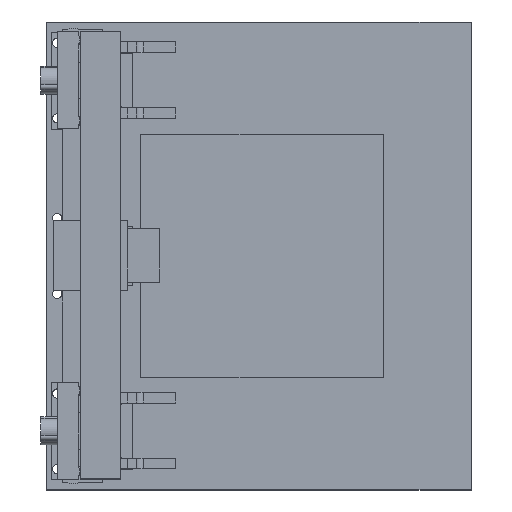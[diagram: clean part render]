
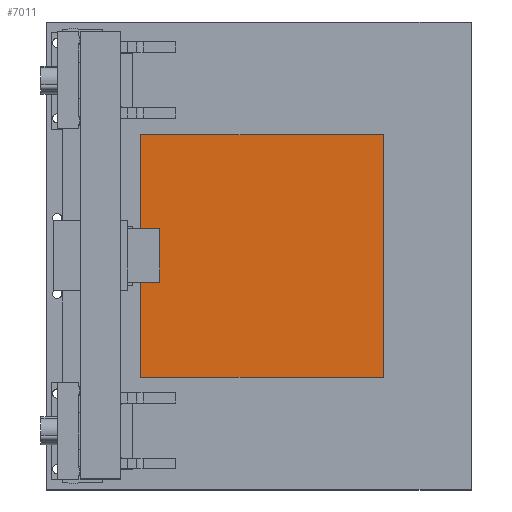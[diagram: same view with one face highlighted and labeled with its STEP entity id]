
A CAD part, top view. The second image highlights one B-rep face of the part: STEP entity #7011.
In plain terms, the highlighted planar face has unit normal (0, 0, 1).
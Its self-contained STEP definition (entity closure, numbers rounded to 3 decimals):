
#6697 = VERTEX_POINT('',#6698);
#6698 = CARTESIAN_POINT('',(-45.,-45.,2.));
#6705 = PLANE('',#6706);
#6706 = AXIS2_PLACEMENT_3D('',#6707,#6708,#6709);
#6707 = CARTESIAN_POINT('',(-45.,-45.,-2.));
#6708 = DIRECTION('',(1.,0.,-0.));
#6709 = DIRECTION('',(0.,0.,1.));
#6717 = PLANE('',#6718);
#6718 = AXIS2_PLACEMENT_3D('',#6719,#6720,#6721);
#6719 = CARTESIAN_POINT('',(-45.,-45.,-2.));
#6720 = DIRECTION('',(-0.,1.,0.));
#6721 = DIRECTION('',(0.,0.,1.));
#6758 = VERTEX_POINT('',#6759);
#6759 = CARTESIAN_POINT('',(-45.,45.,2.));
#6773 = PLANE('',#6774);
#6774 = AXIS2_PLACEMENT_3D('',#6775,#6776,#6777);
#6775 = CARTESIAN_POINT('',(-45.,45.,-2.));
#6776 = DIRECTION('',(-0.,1.,0.));
#6777 = DIRECTION('',(0.,0.,1.));
#6785 = EDGE_CURVE('',#6697,#6758,#6786,.T.);
#6786 = SURFACE_CURVE('',#6787,(#6791,#6798),.PCURVE_S1.);
#6787 = LINE('',#6788,#6789);
#6788 = CARTESIAN_POINT('',(-45.,-45.,2.));
#6789 = VECTOR('',#6790,1.);
#6790 = DIRECTION('',(-0.,1.,0.));
#6791 = PCURVE('',#6705,#6792);
#6792 = DEFINITIONAL_REPRESENTATION('',(#6793),#6797);
#6793 = LINE('',#6794,#6795);
#6794 = CARTESIAN_POINT('',(4.,0.));
#6795 = VECTOR('',#6796,1.);
#6796 = DIRECTION('',(0.,-1.));
#6797 = ( GEOMETRIC_REPRESENTATION_CONTEXT(2) 
PARAMETRIC_REPRESENTATION_CONTEXT() REPRESENTATION_CONTEXT('2D SPACE',''
  ) );
#6798 = PCURVE('',#6799,#6804);
#6799 = PLANE('',#6800);
#6800 = AXIS2_PLACEMENT_3D('',#6801,#6802,#6803);
#6801 = CARTESIAN_POINT('',(-45.,-45.,2.));
#6802 = DIRECTION('',(0.,0.,1.));
#6803 = DIRECTION('',(1.,0.,-0.));
#6804 = DEFINITIONAL_REPRESENTATION('',(#6805),#6809);
#6805 = LINE('',#6806,#6807);
#6806 = CARTESIAN_POINT('',(0.,0.));
#6807 = VECTOR('',#6808,1.);
#6808 = DIRECTION('',(0.,1.));
#6809 = ( GEOMETRIC_REPRESENTATION_CONTEXT(2) 
PARAMETRIC_REPRESENTATION_CONTEXT() REPRESENTATION_CONTEXT('2D SPACE',''
  ) );
#6817 = VERTEX_POINT('',#6818);
#6818 = CARTESIAN_POINT('',(45.,-45.,2.));
#6825 = PLANE('',#6826);
#6826 = AXIS2_PLACEMENT_3D('',#6827,#6828,#6829);
#6827 = CARTESIAN_POINT('',(45.,-45.,-2.));
#6828 = DIRECTION('',(1.,0.,-0.));
#6829 = DIRECTION('',(0.,0.,1.));
#6868 = VERTEX_POINT('',#6869);
#6869 = CARTESIAN_POINT('',(45.,45.,2.));
#6890 = EDGE_CURVE('',#6817,#6868,#6891,.T.);
#6891 = SURFACE_CURVE('',#6892,(#6896,#6903),.PCURVE_S1.);
#6892 = LINE('',#6893,#6894);
#6893 = CARTESIAN_POINT('',(45.,-45.,2.));
#6894 = VECTOR('',#6895,1.);
#6895 = DIRECTION('',(-0.,1.,0.));
#6896 = PCURVE('',#6825,#6897);
#6897 = DEFINITIONAL_REPRESENTATION('',(#6898),#6902);
#6898 = LINE('',#6899,#6900);
#6899 = CARTESIAN_POINT('',(4.,0.));
#6900 = VECTOR('',#6901,1.);
#6901 = DIRECTION('',(0.,-1.));
#6902 = ( GEOMETRIC_REPRESENTATION_CONTEXT(2) 
PARAMETRIC_REPRESENTATION_CONTEXT() REPRESENTATION_CONTEXT('2D SPACE',''
  ) );
#6903 = PCURVE('',#6799,#6904);
#6904 = DEFINITIONAL_REPRESENTATION('',(#6905),#6909);
#6905 = LINE('',#6906,#6907);
#6906 = CARTESIAN_POINT('',(90.,0.));
#6907 = VECTOR('',#6908,1.);
#6908 = DIRECTION('',(0.,1.));
#6909 = ( GEOMETRIC_REPRESENTATION_CONTEXT(2) 
PARAMETRIC_REPRESENTATION_CONTEXT() REPRESENTATION_CONTEXT('2D SPACE',''
  ) );
#6936 = EDGE_CURVE('',#6697,#6817,#6937,.T.);
#6937 = SURFACE_CURVE('',#6938,(#6942,#6949),.PCURVE_S1.);
#6938 = LINE('',#6939,#6940);
#6939 = CARTESIAN_POINT('',(-45.,-45.,2.));
#6940 = VECTOR('',#6941,1.);
#6941 = DIRECTION('',(1.,0.,-0.));
#6942 = PCURVE('',#6717,#6943);
#6943 = DEFINITIONAL_REPRESENTATION('',(#6944),#6948);
#6944 = LINE('',#6945,#6946);
#6945 = CARTESIAN_POINT('',(4.,0.));
#6946 = VECTOR('',#6947,1.);
#6947 = DIRECTION('',(0.,1.));
#6948 = ( GEOMETRIC_REPRESENTATION_CONTEXT(2) 
PARAMETRIC_REPRESENTATION_CONTEXT() REPRESENTATION_CONTEXT('2D SPACE',''
  ) );
#6949 = PCURVE('',#6799,#6950);
#6950 = DEFINITIONAL_REPRESENTATION('',(#6951),#6955);
#6951 = LINE('',#6952,#6953);
#6952 = CARTESIAN_POINT('',(0.,0.));
#6953 = VECTOR('',#6954,1.);
#6954 = DIRECTION('',(1.,0.));
#6955 = ( GEOMETRIC_REPRESENTATION_CONTEXT(2) 
PARAMETRIC_REPRESENTATION_CONTEXT() REPRESENTATION_CONTEXT('2D SPACE',''
  ) );
#6983 = EDGE_CURVE('',#6758,#6868,#6984,.T.);
#6984 = SURFACE_CURVE('',#6985,(#6989,#6996),.PCURVE_S1.);
#6985 = LINE('',#6986,#6987);
#6986 = CARTESIAN_POINT('',(-45.,45.,2.));
#6987 = VECTOR('',#6988,1.);
#6988 = DIRECTION('',(1.,0.,-0.));
#6989 = PCURVE('',#6773,#6990);
#6990 = DEFINITIONAL_REPRESENTATION('',(#6991),#6995);
#6991 = LINE('',#6992,#6993);
#6992 = CARTESIAN_POINT('',(4.,0.));
#6993 = VECTOR('',#6994,1.);
#6994 = DIRECTION('',(0.,1.));
#6995 = ( GEOMETRIC_REPRESENTATION_CONTEXT(2) 
PARAMETRIC_REPRESENTATION_CONTEXT() REPRESENTATION_CONTEXT('2D SPACE',''
  ) );
#6996 = PCURVE('',#6799,#6997);
#6997 = DEFINITIONAL_REPRESENTATION('',(#6998),#7002);
#6998 = LINE('',#6999,#7000);
#6999 = CARTESIAN_POINT('',(0.,90.));
#7000 = VECTOR('',#7001,1.);
#7001 = DIRECTION('',(1.,0.));
#7002 = ( GEOMETRIC_REPRESENTATION_CONTEXT(2) 
PARAMETRIC_REPRESENTATION_CONTEXT() REPRESENTATION_CONTEXT('2D SPACE',''
  ) );
#7011 = ADVANCED_FACE('',(#7012),#6799,.T.);
#7012 = FACE_BOUND('',#7013,.T.);
#7013 = EDGE_LOOP('',(#7014,#7015,#7016,#7017));
#7014 = ORIENTED_EDGE('',*,*,#6785,.F.);
#7015 = ORIENTED_EDGE('',*,*,#6936,.T.);
#7016 = ORIENTED_EDGE('',*,*,#6890,.T.);
#7017 = ORIENTED_EDGE('',*,*,#6983,.F.);
